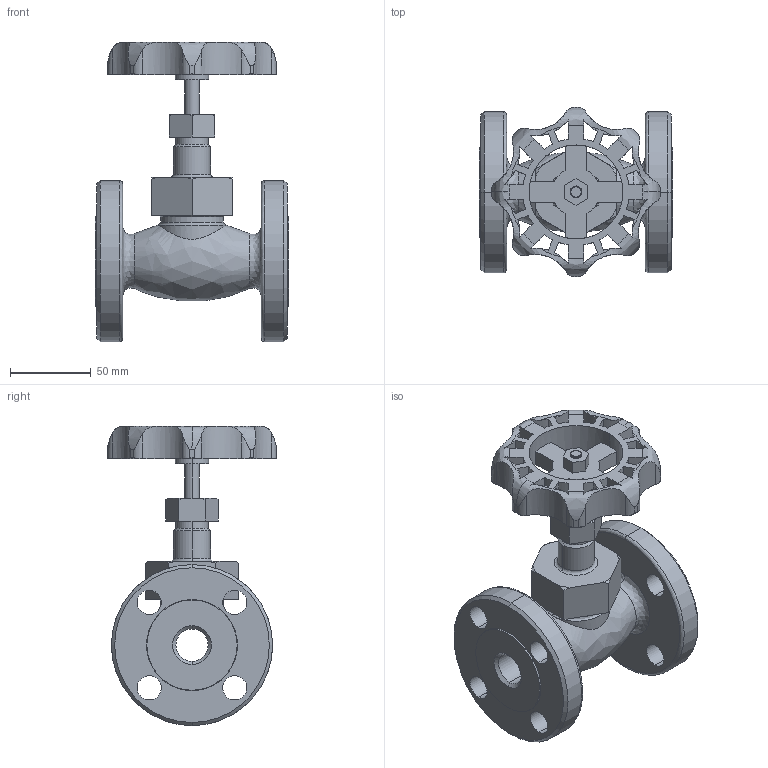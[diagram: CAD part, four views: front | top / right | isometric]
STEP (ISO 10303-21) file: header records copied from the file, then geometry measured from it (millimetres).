
FILE_DESCRIPTION( (''), '2;1');
FILE_NAME ('PC1027.9568.GLV-20F 20A_17445.stp','2025-07-28T11:40:29',(''),(''),'spGate 19.8.4 (****-****-****-****)','','');
FILE_SCHEMA (('AUTOMOTIVE_DESIGN'));
Length unit declared in the file: millimetre
Bounding box: 120 x 104.95 x 185.81 mm (x, y, z)
Volume: 484167.3 mm3; surface area: 103947.3 mm2
Topology: 1 solids, 1 shells, 234 faces, 684 edges, 446 vertices
Faces by surface type: cylinder 105, plane 75, bspline 54
Entity records: 14450 total; most frequent: CARTESIAN_POINT 3303, ORIENTED_EDGE 1368, DIRECTION 1140, COLOUR_RGB 919, PRESENTATION_STYLE_ASSIGNMENT 919, STYLED_ITEM 919, EDGE_CURVE 684, DRAUGHTING_PRE_DEFINED_CURVE_FONT 684
